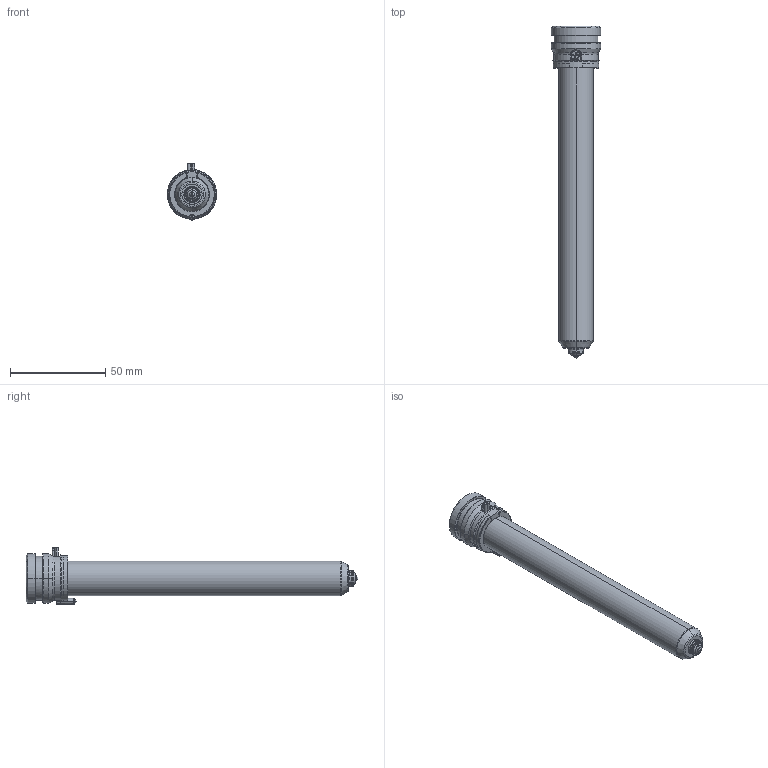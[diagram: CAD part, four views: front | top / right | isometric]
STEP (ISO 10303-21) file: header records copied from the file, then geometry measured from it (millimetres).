
FILE_DESCRIPTION((''),'2;1');
FILE_NAME('TH18156-A-1-PK-JG','2023-12-14T',('umhib'),('Thermoplay S.p.A.'),'PRO/ENGINEER BY PARAMETRIC TECHNOLOGY CORPORATION, 2017170','PRO/ENGINEER BY PARAMETRIC TECHNOLOGY CORPORATION, 2017170','');
FILE_SCHEMA(('CONFIG_CONTROL_DESIGN'));
Length unit declared in the file: millimetre
Products named in the file (1): TH18156-A-1-PK-JG
Bounding box: 26 x 174 x 29.5 mm (x, y, z)
Volume: 34917 mm3; surface area: 25359.8 mm2
Topology: 1 solids, 2 shells, 396 faces, 1032 edges, 641 vertices
Faces by surface type: cylinder 151, plane 85, cone 66, torus 56, bspline 24, sphere 12, extrusion 2
Entity records: 18002 total; most frequent: CARTESIAN_POINT 6093, ORIENTED_EDGE 2040, DIRECTION 2021, EDGE_CURVE 1022, AXIS2_PLACEMENT_3D 811, VERTEX_POINT 641, CIRCLE 440, EDGE_LOOP 416
